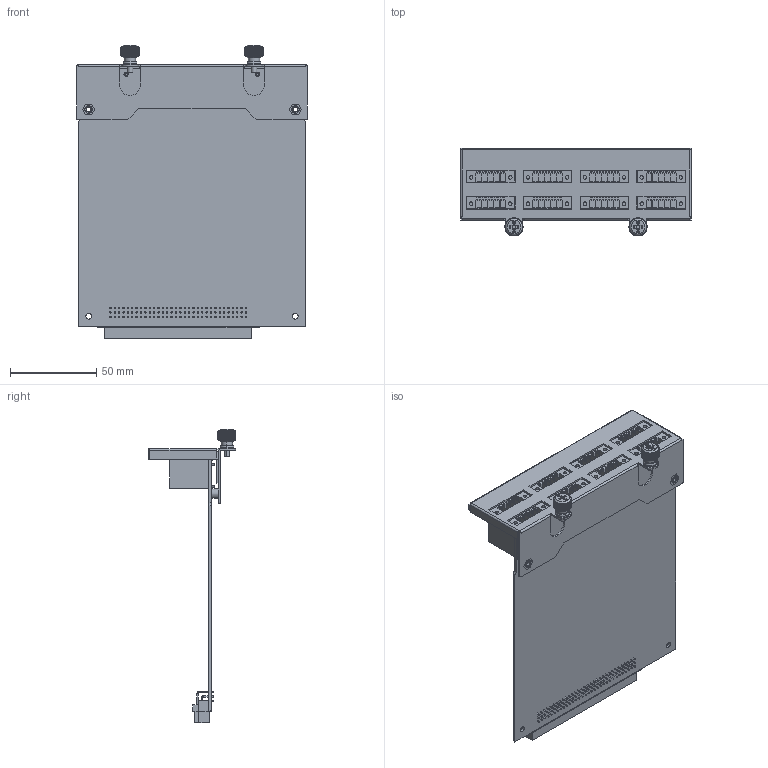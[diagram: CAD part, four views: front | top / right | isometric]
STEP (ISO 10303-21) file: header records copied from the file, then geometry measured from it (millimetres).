
FILE_DESCRIPTION((''),'2;1');
FILE_NAME('DA-SP08-I-EMC4-TB_ASM','2015-06-12T',('LeoCY_Tsai'),(''),'PRO/ENGINEER BY PARAMETRIC TECHNOLOGY CORPORATION, 2013230','PRO/ENGINEER BY PARAMETRIC TECHNOLOGY CORPORATION, 2013230','');
FILE_SCHEMA(('CONFIG_CONTROL_DESIGN'));
Length unit declared in the file: millimetre
Products named in the file (9): DA682-4CAN-BRACKET___; SO-M3X5L_; HANDLE_SCREW-PF11-M3-1C_; 1601006820480_ASM; SP08_; 1126002096000_DIN41612-96P_F90_; DINKLE_ECH350RM-10P_; DA-682A-SP08-TB_ASM; DA-SP08-I-EMC4-TB_ASM
Assembly tree (13 placements, depth 3):
  DA-SP08-I-EMC4-TB_ASM
    1601006820480_ASM
      DA682-4CAN-BRACKET___
      SO-M3X5L_  x2
      HANDLE_SCREW-PF11-M3-1C_  x2
    DA-682A-SP08-TB_ASM
      SP08_
      1126002096000_DIN41612-96P_F90_
      DINKLE_ECH350RM-10P_  x4
Bounding box: 134 x 51.05 x 170.29 mm (x, y, z)
Volume: 91348.9 mm3; surface area: 102893.5 mm2
Topology: 11 solids, 13 shells, 2687 faces, 6544 edges, 4184 vertices
Faces by surface type: plane 1663, cylinder 772, torus 204, cone 40, sphere 8
Entity records: 52263 total; most frequent: CARTESIAN_POINT 9810, DIRECTION 8978, ORIENTED_EDGE 8508, EDGE_CURVE 4256, AXIS2_PLACEMENT_3D 3170, VERTEX_POINT 2676, VECTOR 2638, LINE 2638
